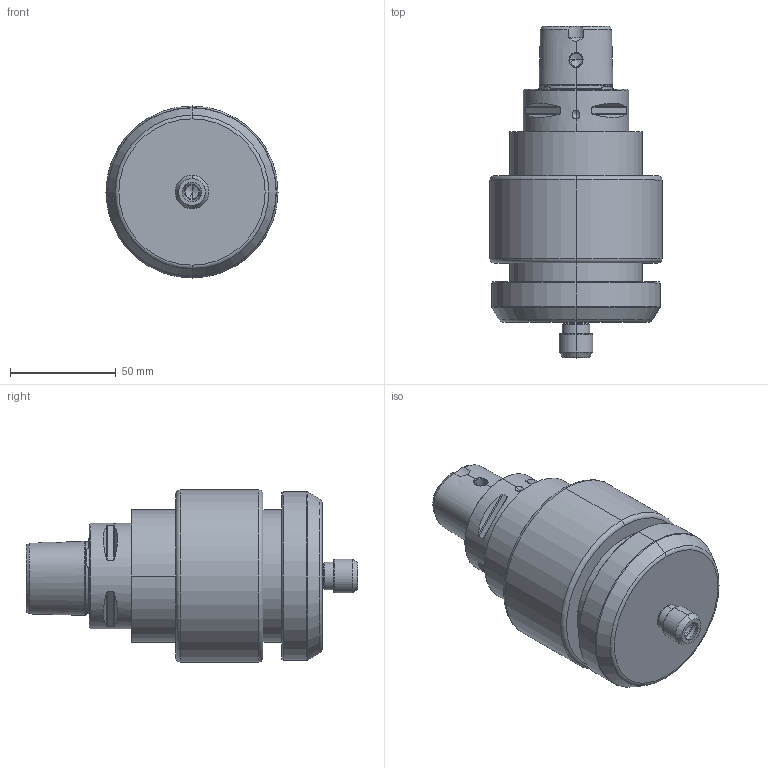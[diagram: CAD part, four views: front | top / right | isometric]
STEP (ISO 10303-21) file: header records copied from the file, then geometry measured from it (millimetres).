
FILE_DESCRIPTION (( 'STEP AP214' ), '1' );
FILE_NAME ('TJS-HPC -CAPTO C5-Light.STEP', '2024-07-22T13:22:25', ( '' ), ( '' ), 'SwSTEP 2.0', 'SolidWorks 2024', '' );
FILE_SCHEMA (( 'AUTOMOTIVE_DESIGN' ));
Length unit declared in the file: millimetre
Products named in the file (1): TJS-HPC -CAPTO C5-Light
Bounding box: 81.5 x 157.27 x 81.5 mm (x, y, z)
Volume: 451854.4 mm3; surface area: 45989.1 mm2
Topology: 1 solids, 1 shells, 152 faces, 364 edges, 212 vertices
Faces by surface type: cone 48, cylinder 45, plane 27, bspline 22, torus 10
Entity records: 9859 total; most frequent: CARTESIAN_POINT 6547, ORIENTED_EDGE 696, DIRECTION 667, EDGE_CURVE 348, AXIS2_PLACEMENT_3D 277, VERTEX_POINT 212, EDGE_LOOP 168, FACE_OUTER_BOUND 152
